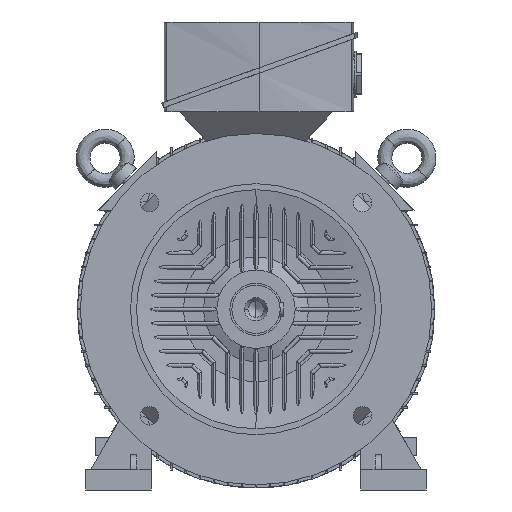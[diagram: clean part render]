
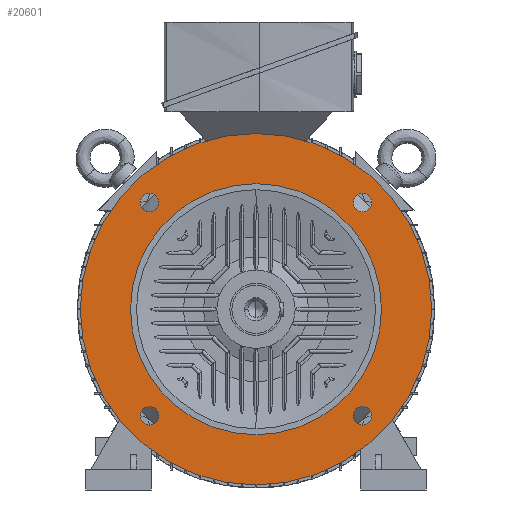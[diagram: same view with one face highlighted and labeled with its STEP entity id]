
A CAD part, left-side view. The second image highlights one B-rep face of the part: STEP entity #20601.
In plain terms, the highlighted planar face has unit normal (-1, 0, 0).
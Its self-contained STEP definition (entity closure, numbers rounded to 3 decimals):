
#78 = DIRECTION ( 'NONE',  ( 0., 0., -1. ) ) ;
#103 = PLANE ( 'NONE',  #1141 ) ;
#212 = CARTESIAN_POINT ( 'NONE',  ( -78., 150., 0. ) ) ;
#1141 = AXIS2_PLACEMENT_3D ( 'NONE', #212, #1252, #1310 ) ;
#1144 = ORIENTED_EDGE ( 'NONE', *, *, #38980, .T. ) ;
#1252 = DIRECTION ( 'NONE',  ( -1., 0., 0. ) ) ;
#1310 = DIRECTION ( 'NONE',  ( 0., 0., 1. ) ) ;
#1651 = FACE_BOUND ( 'NONE', #20050, .T. ) ;
#2089 = VERTEX_POINT ( 'NONE', #36664 ) ;
#2539 = CARTESIAN_POINT ( 'NONE',  ( -78., 106.066, -106.066 ) ) ;
#3253 = CARTESIAN_POINT ( 'NONE',  ( -78., 106.066, -115.316 ) ) ;
#4305 = CIRCLE ( 'NONE', #44924, 9.25 ) ;
#4531 = CARTESIAN_POINT ( 'NONE',  ( -78., -106.066, 96.816 ) ) ;
#4803 = ORIENTED_EDGE ( 'NONE', *, *, #44242, .T. ) ;
#5034 = DIRECTION ( 'NONE',  ( 1., 0., 0. ) ) ;
#5227 = EDGE_CURVE ( 'NONE', #31720, #30615, #42358, .T. ) ;
#5401 = FACE_BOUND ( 'NONE', #13516, .T. ) ;
#5667 = VERTEX_POINT ( 'NONE', #13040 ) ;
#5785 = AXIS2_PLACEMENT_3D ( 'NONE', #23281, #50553, #27338 ) ;
#6589 = DIRECTION ( 'NONE',  ( 0., 0., -1. ) ) ;
#8128 = ORIENTED_EDGE ( 'NONE', *, *, #43829, .T. ) ;
#8525 = DIRECTION ( 'NONE',  ( 0., 0., -1. ) ) ;
#8568 = DIRECTION ( 'NONE',  ( 1., 0., 0. ) ) ;
#8707 = CARTESIAN_POINT ( 'NONE',  ( -78., -106.066, -106.066 ) ) ;
#9436 = CIRCLE ( 'NONE', #17356, 9.25 ) ;
#9767 = FACE_BOUND ( 'NONE', #34068, .T. ) ;
#9882 = CARTESIAN_POINT ( 'NONE',  ( -78., -106.066, 106.066 ) ) ;
#11599 = AXIS2_PLACEMENT_3D ( 'NONE', #13122, #40743, #17085 ) ;
#11657 = AXIS2_PLACEMENT_3D ( 'NONE', #29061, #5034, #32999 ) ;
#11768 = ORIENTED_EDGE ( 'NONE', *, *, #26891, .F. ) ;
#11829 = AXIS2_PLACEMENT_3D ( 'NONE', #8707, #8568, #8525 ) ;
#11892 = FACE_OUTER_BOUND ( 'NONE', #47420, .T. ) ;
#12469 = CARTESIAN_POINT ( 'NONE',  ( -78., 0., -125. ) ) ;
#12712 = AXIS2_PLACEMENT_3D ( 'NONE', #9882, #37571, #13857 ) ;
#13040 = CARTESIAN_POINT ( 'NONE',  ( -78., 0., 125. ) ) ;
#13122 = CARTESIAN_POINT ( 'NONE',  ( -78., 0., 0. ) ) ;
#13516 = EDGE_LOOP ( 'NONE', ( #31200, #29823 ) ) ;
#13857 = DIRECTION ( 'NONE',  ( 0., 0., -1. ) ) ;
#14488 = EDGE_CURVE ( 'NONE', #30615, #31720, #42355, .T. ) ;
#16847 = EDGE_LOOP ( 'NONE', ( #1144, #17252 ) ) ;
#17085 = DIRECTION ( 'NONE',  ( 0., 0., 1. ) ) ;
#17119 = CARTESIAN_POINT ( 'NONE',  ( -78., -106.066, -115.316 ) ) ;
#17165 = DIRECTION ( 'NONE',  ( 1., 0., 0. ) ) ;
#17252 = ORIENTED_EDGE ( 'NONE', *, *, #24859, .T. ) ;
#17356 = AXIS2_PLACEMENT_3D ( 'NONE', #2539, #30594, #6589 ) ;
#18184 = CARTESIAN_POINT ( 'NONE',  ( -78., 0., 0. ) ) ;
#20050 = EDGE_LOOP ( 'NONE', ( #48653, #45870 ) ) ;
#20601 = ADVANCED_FACE ( 'NONE', ( #5401, #11892, #9767, #44201, #42520, #1651 ), #103, .T. ) ;
#21348 = DIRECTION ( 'NONE',  ( 1., 0., 0. ) ) ;
#21427 = CIRCLE ( 'NONE', #37206, 9.25 ) ;
#21842 = ORIENTED_EDGE ( 'NONE', *, *, #29126, .T. ) ;
#22047 = AXIS2_PLACEMENT_3D ( 'NONE', #44824, #21348, #48705 ) ;
#22211 = DIRECTION ( 'NONE',  ( 0., 0., 1. ) ) ;
#23281 = CARTESIAN_POINT ( 'NONE',  ( -78., 0., 0. ) ) ;
#23881 = VERTEX_POINT ( 'NONE', #25802 ) ;
#24344 = ORIENTED_EDGE ( 'NONE', *, *, #44243, .F. ) ;
#24859 = EDGE_CURVE ( 'NONE', #44365, #2089, #4305, .T. ) ;
#24928 = VERTEX_POINT ( 'NONE', #39720 ) ;
#25385 = VERTEX_POINT ( 'NONE', #42418 ) ;
#25802 = CARTESIAN_POINT ( 'NONE',  ( -78., -106.066, 115.316 ) ) ;
#26114 = DIRECTION ( 'NONE',  ( 0., 0., 1. ) ) ;
#26158 = DIRECTION ( 'NONE',  ( 1., 0., 0. ) ) ;
#26231 = CARTESIAN_POINT ( 'NONE',  ( -78., 0., 0. ) ) ;
#26891 = EDGE_CURVE ( 'NONE', #49610, #25385, #36922, .T. ) ;
#27338 = DIRECTION ( 'NONE',  ( 0., 0., 1. ) ) ;
#27512 = CARTESIAN_POINT ( 'NONE',  ( -78., -106.066, -96.816 ) ) ;
#27563 = AXIS2_PLACEMENT_3D ( 'NONE', #40823, #17165, #28848 ) ;
#28848 = DIRECTION ( 'NONE',  ( 0., 0., -1. ) ) ;
#29061 = CARTESIAN_POINT ( 'NONE',  ( -78., -106.066, 106.066 ) ) ;
#29126 = EDGE_CURVE ( 'NONE', #49977, #24928, #21427, .T. ) ;
#29823 = ORIENTED_EDGE ( 'NONE', *, *, #47360, .T. ) ;
#30220 = EDGE_LOOP ( 'NONE', ( #21842, #39038 ) ) ;
#30594 = DIRECTION ( 'NONE',  ( 1., 0., 0. ) ) ;
#30615 = VERTEX_POINT ( 'NONE', #17119 ) ;
#31195 = AXIS2_PLACEMENT_3D ( 'NONE', #18184, #45660, #22211 ) ;
#31200 = ORIENTED_EDGE ( 'NONE', *, *, #33254, .T. ) ;
#31654 = CARTESIAN_POINT ( 'NONE',  ( -78., 106.066, -106.066 ) ) ;
#31720 = VERTEX_POINT ( 'NONE', #27512 ) ;
#32999 = DIRECTION ( 'NONE',  ( 0., 0., -1. ) ) ;
#33254 = EDGE_CURVE ( 'NONE', #5667, #36459, #38010, .T. ) ;
#33360 = CIRCLE ( 'NONE', #11657, 9.25 ) ;
#33724 = CIRCLE ( 'NONE', #12712, 9.25 ) ;
#34068 = EDGE_LOOP ( 'NONE', ( #8128, #4803 ) ) ;
#35589 = CARTESIAN_POINT ( 'NONE',  ( -78., 106.066, 106.066 ) ) ;
#35689 = DIRECTION ( 'NONE',  ( 1., 0., 0. ) ) ;
#35858 = DIRECTION ( 'NONE',  ( 0., 0., -1. ) ) ;
#36459 = VERTEX_POINT ( 'NONE', #12469 ) ;
#36664 = CARTESIAN_POINT ( 'NONE',  ( -78., 106.066, 96.816 ) ) ;
#36922 = CIRCLE ( 'NONE', #41204, 175. ) ;
#37155 = DIRECTION ( 'NONE',  ( 1., 0., 0. ) ) ;
#37206 = AXIS2_PLACEMENT_3D ( 'NONE', #31654, #37155, #78 ) ;
#37571 = DIRECTION ( 'NONE',  ( 1., 0., 0. ) ) ;
#37694 = CARTESIAN_POINT ( 'NONE',  ( -78., 106.066, 115.316 ) ) ;
#38010 = CIRCLE ( 'NONE', #31195, 125. ) ;
#38712 = CIRCLE ( 'NONE', #5785, 125. ) ;
#38980 = EDGE_CURVE ( 'NONE', #2089, #44365, #43364, .T. ) ;
#39038 = ORIENTED_EDGE ( 'NONE', *, *, #41484, .T. ) ;
#39588 = CARTESIAN_POINT ( 'NONE',  ( -78., 0., -175. ) ) ;
#39720 = CARTESIAN_POINT ( 'NONE',  ( -78., 106.066, -96.816 ) ) ;
#40743 = DIRECTION ( 'NONE',  ( 1., 0., 0. ) ) ;
#40823 = CARTESIAN_POINT ( 'NONE',  ( -78., -106.066, -106.066 ) ) ;
#41204 = AXIS2_PLACEMENT_3D ( 'NONE', #26231, #26158, #26114 ) ;
#41484 = EDGE_CURVE ( 'NONE', #24928, #49977, #9436, .T. ) ;
#42355 = CIRCLE ( 'NONE', #11829, 9.25 ) ;
#42358 = CIRCLE ( 'NONE', #27563, 9.25 ) ;
#42418 = CARTESIAN_POINT ( 'NONE',  ( -78., 0., 175. ) ) ;
#42520 = FACE_BOUND ( 'NONE', #30220, .T. ) ;
#43364 = CIRCLE ( 'NONE', #22047, 9.25 ) ;
#43829 = EDGE_CURVE ( 'NONE', #48116, #23881, #33724, .T. ) ;
#44201 = FACE_BOUND ( 'NONE', #16847, .T. ) ;
#44242 = EDGE_CURVE ( 'NONE', #23881, #48116, #33360, .T. ) ;
#44243 = EDGE_CURVE ( 'NONE', #25385, #49610, #47607, .T. ) ;
#44365 = VERTEX_POINT ( 'NONE', #37694 ) ;
#44824 = CARTESIAN_POINT ( 'NONE',  ( -78., 106.066, 106.066 ) ) ;
#44924 = AXIS2_PLACEMENT_3D ( 'NONE', #35589, #35689, #35858 ) ;
#45660 = DIRECTION ( 'NONE',  ( 1., 0., 0. ) ) ;
#45870 = ORIENTED_EDGE ( 'NONE', *, *, #5227, .T. ) ;
#47360 = EDGE_CURVE ( 'NONE', #36459, #5667, #38712, .T. ) ;
#47420 = EDGE_LOOP ( 'NONE', ( #24344, #11768 ) ) ;
#47607 = CIRCLE ( 'NONE', #11599, 175. ) ;
#48116 = VERTEX_POINT ( 'NONE', #4531 ) ;
#48653 = ORIENTED_EDGE ( 'NONE', *, *, #14488, .T. ) ;
#48705 = DIRECTION ( 'NONE',  ( 0., 0., -1. ) ) ;
#49610 = VERTEX_POINT ( 'NONE', #39588 ) ;
#49977 = VERTEX_POINT ( 'NONE', #3253 ) ;
#50553 = DIRECTION ( 'NONE',  ( 1., 0., 0. ) ) ;
